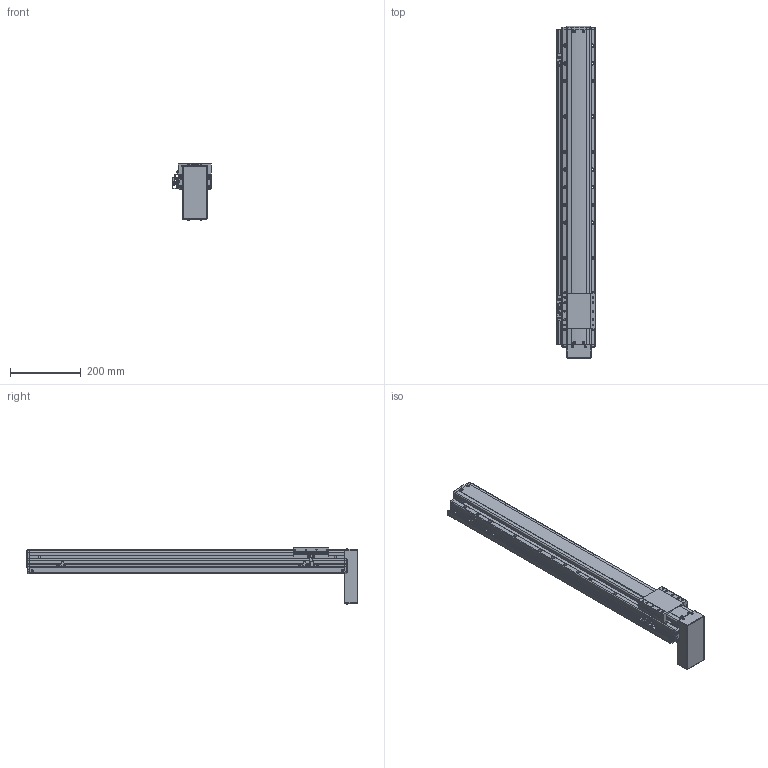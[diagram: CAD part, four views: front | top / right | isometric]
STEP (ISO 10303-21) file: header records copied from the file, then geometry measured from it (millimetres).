
FILE_DESCRIPTION(('STEP AP214'),'1');
FILE_NAME('Z:/Web/3D/PSA95/STP/PSA95-700 (3D)/PSA95ㅁㅁ-700PB+3SL.stp','2014-07-03T00:45:33',(' '),(' '),'Spatial InterOp 3D',' ',' ');
FILE_SCHEMA(('automotive_design'));
Length unit declared in the file: millimetre
Products named in the file (47): BASE; RRCV; 스크루 : Round - M4.0 x 10.0; 너트 : Square - M10.0 x 220.7419; RR1500; FRCV-090; 스크루 : Round - M4.0 x 6.0; SLBL-PA90; MTPL COVER; 스크루 : Round - M3.0 x 6.0; 1; 2; EE-SX674; SBK-SX674-352; M3.0 x 6.0; SRL-16x17-380L; SGD-PA95; 스크루 : Round - M3.0 x 8.0
Bounding box: 111.1 x 937.5 x 159.57 mm (x, y, z)
Volume: 5313617.9 mm3; surface area: 636267.6 mm2
Topology: 47 solids, 47 shells, 2586 faces, 6861 edges, 4399 vertices
Faces by surface type: plane 1491, cylinder 741, cone 246, sphere 70, bspline 24, torus 14
Entity records: 103478 total; most frequent: CARTESIAN_POINT 17016, DIRECTION 13748, ORIENTED_EDGE 13434, EDGE_CURVE 6717, AXIS2_PLACEMENT_3D 4605, LINE 4538, VECTOR 4538, VERTEX_POINT 4399
